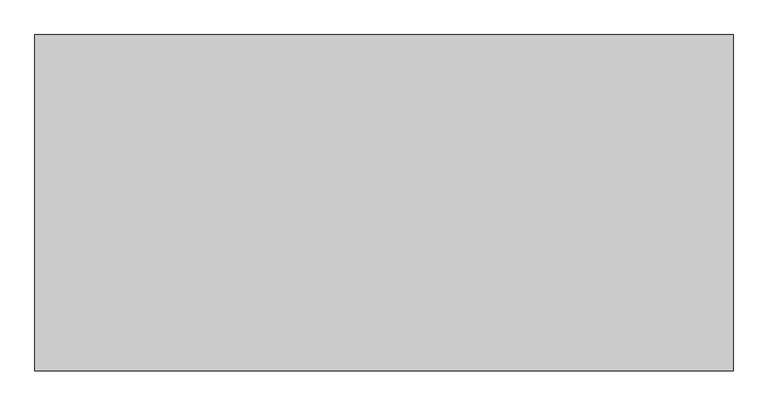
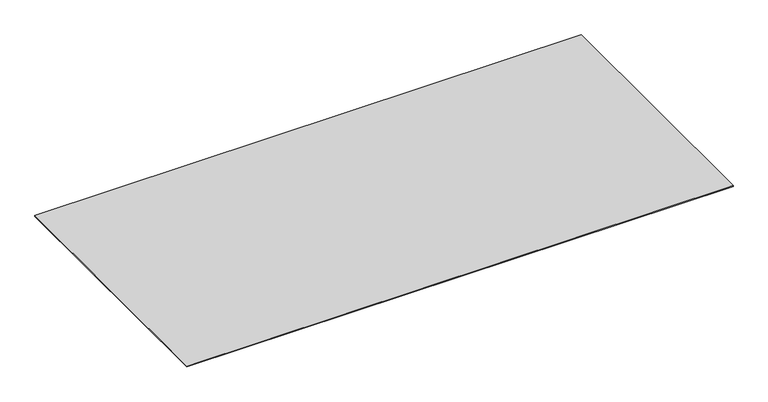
"""IFC4 building model written with IfcOpenShell, lengths in millimetres: proxy geometry, Подложка 1 : Подложка 1."""

from ifc_helpers import new_model, si_unit, frame, origin, place, context, project, spatial, polyline, outline, extrude, source, transform, mapped, element, save


def generic_models_73056b47(model_context):
    return source(origin(), model_context, "Body", "SweptSolid", [
        extrude(outline(polyline([(17016.0311595, 4386.1785827), (-55.1291696, 4386.1785827), (-55.1291696, 12608.2377046), (17016.0311595, 12608.2377046), (17016.0311595, 4386.1785827)])), frame((0.0, 0.0, -50.0), z_axis=(0.0, 0.0, 1.0), x_axis=(1.0, 0.0, 0.0)), (0.0, 0.0, 1.0), 25.0),
    ])


if __name__ == "__main__":
    model = new_model("IFC4")
    model_context = context("Model", 3, world=origin())
    ifc_project = project(units=[si_unit("LENGTHUNIT", "METRE", prefix="MILLI")], contexts=[model_context])
    site = spatial("IfcSite", under=ifc_project)
    building = spatial("IfcBuilding", under=site)
    placement = place(None, origin())
    generic_models_shape = generic_models_73056b47(model_context)
    element("IfcBuildingElementProxy", 1, Name="Подложка 1 : Подложка 1", ObjectType="Подложка 1 : Подложка 1", at=placement, inside=building, context=model_context, shape_type="MappedRepresentation", body=[
        mapped(generic_models_shape, transform((0.0, 0.0, 0.0), x_axis=(1.0, 0.0, 0.0), y_axis=(0.0, 1.0, 0.0), z_axis=(0.0, 0.0, 1.0))),
    ])
    save(model, "model.ifc")
